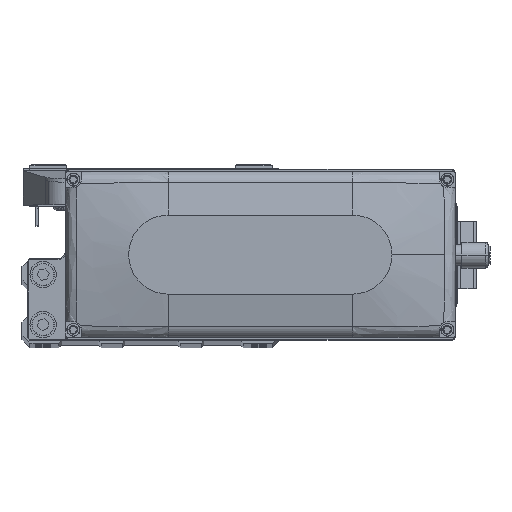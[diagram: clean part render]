
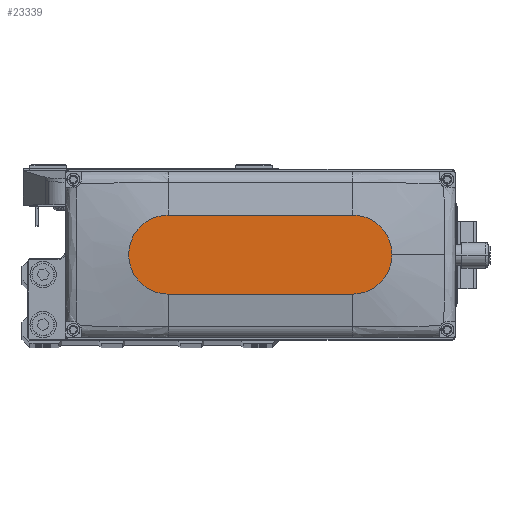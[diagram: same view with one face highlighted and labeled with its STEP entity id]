
A CAD part, top view. The second image highlights one B-rep face of the part: STEP entity #23339.
In plain terms, the highlighted planar face has unit normal (0, 0, 1).
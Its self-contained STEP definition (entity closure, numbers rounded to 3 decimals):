
#218 = CARTESIAN_POINT ( 'NONE',  ( 50., 0., 35. ) ) ;
#2014 = VECTOR ( 'NONE', #46283, 1000. ) ;
#3500 = AXIS2_PLACEMENT_3D ( 'NONE', #38106, #4766, #19613 ) ;
#4042 = ORIENTED_EDGE ( 'NONE', *, *, #17156, .T. ) ;
#4766 = DIRECTION ( 'NONE',  ( 0., 0., 1. ) ) ;
#6671 = AXIS2_PLACEMENT_3D ( 'NONE', #29351, #44214, #10888 ) ;
#6853 = DIRECTION ( 'NONE',  ( 0., 0., 1. ) ) ;
#8516 = LINE ( 'NONE', #23358, #42714 ) ;
#8878 = EDGE_CURVE ( 'NONE', #20756, #39664, #27634, .T. ) ;
#9160 = ORIENTED_EDGE ( 'NONE', *, *, #8878, .T. ) ;
#9638 = DIRECTION ( 'NONE',  ( 1., 0., 0. ) ) ;
#10888 = DIRECTION ( 'NONE',  ( 1., 0., 0. ) ) ;
#11430 = VERTEX_POINT ( 'NONE', #45247 ) ;
#12953 = AXIS2_PLACEMENT_3D ( 'NONE', #40180, #6853, #21686 ) ;
#13307 = PLANE ( 'NONE',  #15547 ) ;
#14892 = CARTESIAN_POINT ( 'NONE',  ( -35., -15., 35. ) ) ;
#15547 = AXIS2_PLACEMENT_3D ( 'NONE', #28115, #42970, #9638 ) ;
#16589 = LINE ( 'NONE', #31413, #2014 ) ;
#17156 = EDGE_CURVE ( 'NONE', #21700, #38236, #27688, .T. ) ;
#19613 = DIRECTION ( 'NONE',  ( 1., 0., 0. ) ) ;
#20756 = VERTEX_POINT ( 'NONE', #20809 ) ;
#20809 = CARTESIAN_POINT ( 'NONE',  ( 35., -15., 35. ) ) ;
#21686 = DIRECTION ( 'NONE',  ( 1., 0., 0. ) ) ;
#21700 = VERTEX_POINT ( 'NONE', #29671 ) ;
#23339 = ADVANCED_FACE ( 'NONE', ( #46638 ), #13307, .T. ) ;
#23358 = CARTESIAN_POINT ( 'NONE',  ( -35., 15., 35. ) ) ;
#24292 = ORIENTED_EDGE ( 'NONE', *, *, #37975, .T. ) ;
#24482 = CIRCLE ( 'NONE', #3500, 15. ) ;
#24913 = EDGE_LOOP ( 'NONE', ( #45541, #4042, #24292, #9160, #46950 ) ) ;
#26107 = EDGE_CURVE ( 'NONE', #39664, #11430, #24482, .T. ) ;
#27634 = CIRCLE ( 'NONE', #6671, 15. ) ;
#27688 = CIRCLE ( 'NONE', #12953, 15. ) ;
#28115 = CARTESIAN_POINT ( 'NONE',  ( 0., 0., 35. ) ) ;
#29351 = CARTESIAN_POINT ( 'NONE',  ( 35., 0., 35. ) ) ;
#29671 = CARTESIAN_POINT ( 'NONE',  ( -35., 15., 35. ) ) ;
#31413 = CARTESIAN_POINT ( 'NONE',  ( -35., -15., 35. ) ) ;
#32186 = EDGE_CURVE ( 'NONE', #11430, #21700, #8516, .T. ) ;
#37975 = EDGE_CURVE ( 'NONE', #38236, #20756, #16589, .T. ) ;
#38106 = CARTESIAN_POINT ( 'NONE',  ( 35., 0., 35. ) ) ;
#38206 = DIRECTION ( 'NONE',  ( -1., 0., 0. ) ) ;
#38236 = VERTEX_POINT ( 'NONE', #14892 ) ;
#39664 = VERTEX_POINT ( 'NONE', #218 ) ;
#40180 = CARTESIAN_POINT ( 'NONE',  ( -35., 0., 35. ) ) ;
#42714 = VECTOR ( 'NONE', #38206, 1000. ) ;
#42970 = DIRECTION ( 'NONE',  ( 0., 0., 1. ) ) ;
#44214 = DIRECTION ( 'NONE',  ( 0., 0., 1. ) ) ;
#45247 = CARTESIAN_POINT ( 'NONE',  ( 35., 15., 35. ) ) ;
#45541 = ORIENTED_EDGE ( 'NONE', *, *, #32186, .T. ) ;
#46283 = DIRECTION ( 'NONE',  ( 1., 0., 0. ) ) ;
#46638 = FACE_OUTER_BOUND ( 'NONE', #24913, .T. ) ;
#46950 = ORIENTED_EDGE ( 'NONE', *, *, #26107, .T. ) ;
